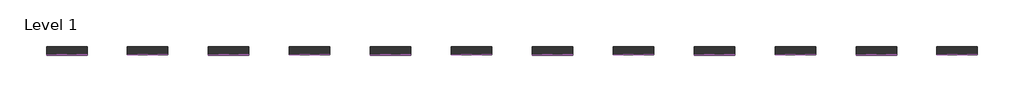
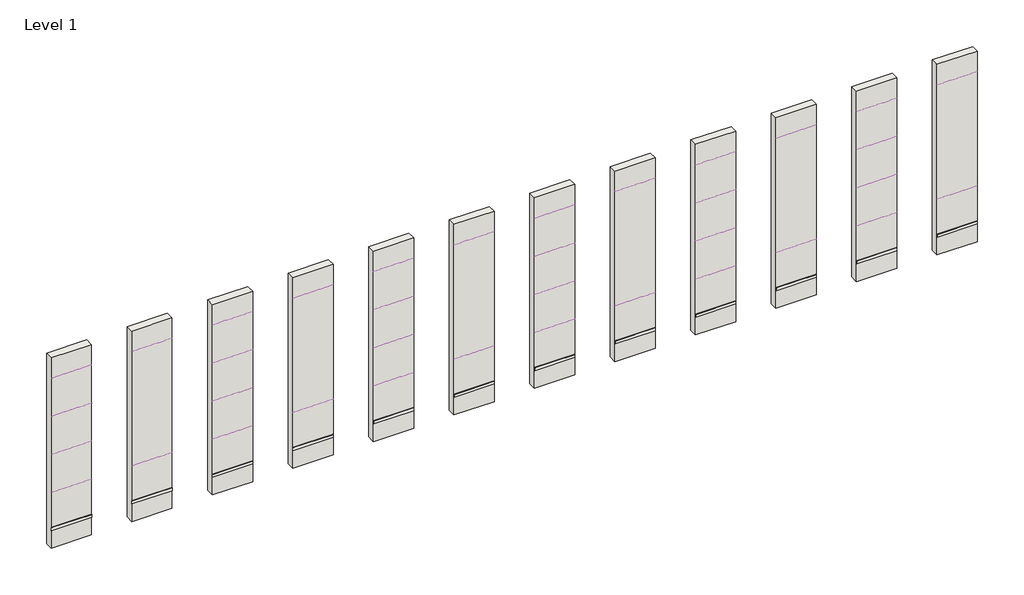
# One storey: 48 coverings, 12 walls.
"""IFC4 building model written with IfcOpenShell, lengths in millimetres."""

from ifc_helpers import new_model, si_unit, point, frame, frame_2d, origin, place, context, project, spatial, polyline, circle_curve, trimmed, segment, composite_curve, outline, extrude, element, save

model = new_model("IFC4")

# Units and contexts
model_context = context("Model", 3, world=origin())
ifc_project = project(units=[si_unit("LENGTHUNIT", "METRE", prefix="MILLI")], contexts=[model_context])

# Site, building, storey
site = spatial("IfcSite", under=ifc_project)
building = spatial("IfcBuilding", under=site)
storey = spatial("IfcBuildingStorey", under=building, Name="Level 1", Elevation=0.0)

# Coverings
placement = place(None, origin())
element("IfcCovering", 1, ObjectType="REVIGRÉS-URBAN-RB-8X45-RECT-ANTRACITE", at=placement, inside=storey, context=model_context, shape_type="SweptSolid", body=[
    extrude(outline(composite_curve([segment(polyline([(-6973.1153225, 350.0), (-6982.9153225, 350.0), (-6982.9153225, 420.2)]), True, "CONTINUOUS"), segment(trimmed(circle_curve(frame_2d((-6973.1153225, 420.2)), 9.8), [point((-6982.9153225, 420.2))], [point((-6973.1153225, 430.0))], False, "CARTESIAN"), True, "CONTINUOUS"), segment(polyline([(-6973.1153225, 430.0), (-6973.1153225, 350.0)]), True, "CONTINUOUS")], self_intersect=False)), frame((5592.0023157, 0.0, 0.0), z_axis=(1.0, 0.0, 0.0), x_axis=(0.0, 1.0, 0.0)), (0.0, 0.0, 1.0), 1000.0),
])
element("IfcCovering", 2, ObjectType="REVIGRÉS-URBAN-RB-8X60-RECT-ANTRACITE", at=placement, inside=storey, context=model_context, shape_type="SweptSolid", body=[
    extrude(outline(composite_curve([segment(polyline([(-6973.1153225, 1350.0), (-6981.6153225, 1350.0), (-6981.6153225, 1421.5)]), True, "CONTINUOUS"), segment(trimmed(circle_curve(frame_2d((-6973.1153225, 1421.5)), 8.5), [point((-6981.6153225, 1421.5))], [point((-6973.1153225, 1430.0))], False, "CARTESIAN"), True, "CONTINUOUS"), segment(polyline([(-6973.1153225, 1430.0), (-6973.1153225, 1350.0)]), True, "CONTINUOUS")], self_intersect=False)), frame((5592.0023157, 0.0, 0.0), z_axis=(1.0, 0.0, 0.0), x_axis=(0.0, 1.0, 0.0)), (0.0, 0.0, 1.0), 1000.0),
])
element("IfcCovering", 3, ObjectType="REVIGRÉS-URBAN-RB-8X90-RECT-ANTRACITE", at=placement, inside=storey, context=model_context, shape_type="SweptSolid", body=[
    extrude(outline(composite_curve([segment(polyline([(-6973.1153225, 2350.0), (-6983.6153225, 2350.0), (-6983.6153225, 2419.5)]), True, "CONTINUOUS"), segment(trimmed(circle_curve(frame_2d((-6973.1153225, 2419.5)), 10.5), [point((-6983.6153225, 2419.5))], [point((-6973.1153225, 2430.0))], False, "CARTESIAN"), True, "CONTINUOUS"), segment(polyline([(-6973.1153225, 2430.0), (-6973.1153225, 2350.0)]), True, "CONTINUOUS")], self_intersect=False)), frame((5592.0023157, 0.0, 0.0), z_axis=(1.0, 0.0, 0.0), x_axis=(0.0, 1.0, 0.0)), (0.0, 0.0, 1.0), 1000.0),
])
element("IfcCovering", 4, ObjectType="REVIGRÉS-URBAN-RB-8X120-RECT-ANTRACITE", at=placement, inside=storey, context=model_context, shape_type="SweptSolid", body=[
    extrude(outline(composite_curve([segment(polyline([(-6973.1153225, 3350.0), (-6982.9153225, 3350.0), (-6982.9153225, 3420.2)]), True, "CONTINUOUS"), segment(trimmed(circle_curve(frame_2d((-6973.1153225, 3420.2)), 9.8), [point((-6982.9153225, 3420.2))], [point((-6973.1153225, 3430.0))], False, "CARTESIAN"), True, "CONTINUOUS"), segment(polyline([(-6973.1153225, 3430.0), (-6973.1153225, 3350.0)]), True, "CONTINUOUS")], self_intersect=False)), frame((5592.0023157, 0.0, 0.0), z_axis=(1.0, 0.0, 0.0), x_axis=(0.0, 1.0, 0.0)), (0.0, 0.0, 1.0), 1000.0),
])
element("IfcCovering", 5, ObjectType="REVIGRÉS-URBAN-RB-9.5X30-RECT-ANTRACITE", at=placement, inside=storey, context=model_context, shape_type="SweptSolid", body=[
    extrude(outline(composite_curve([segment(polyline([(-6973.1153225, 4350.0), (-6980.8153225, 4350.0), (-6980.8153225, 4437.3)]), True, "CONTINUOUS"), segment(trimmed(circle_curve(frame_2d((-6973.1153225, 4437.3)), 7.7), [point((-6980.8153225, 4437.3))], [point((-6973.1153225, 4445.0))], False, "CARTESIAN"), True, "CONTINUOUS"), segment(polyline([(-6973.1153225, 4445.0), (-6973.1153225, 4350.0)]), True, "CONTINUOUS")], self_intersect=False)), frame((5592.0023157, 0.0, 0.0), z_axis=(1.0, 0.0, 0.0), x_axis=(0.0, 1.0, 0.0)), (0.0, 0.0, 1.0), 1000.0),
])
element("IfcCovering", 6, ObjectType="REVIGRÉS-URBAN-RB-8X45-NAT-ANTRACITE", at=placement, inside=storey, context=model_context, shape_type="SweptSolid", body=[
    extrude(outline(composite_curve([segment(polyline([(-6973.1153225, 350.0), (-6981.6153225, 350.0), (-6981.6153225, 421.5)]), True, "CONTINUOUS"), segment(trimmed(circle_curve(frame_2d((-6973.1153225, 421.5)), 8.5), [point((-6981.6153225, 421.5))], [point((-6973.1153225, 430.0))], False, "CARTESIAN"), True, "CONTINUOUS"), segment(polyline([(-6973.1153225, 430.0), (-6973.1153225, 350.0)]), True, "CONTINUOUS")], self_intersect=False)), frame((7592.0023157, 0.0, 0.0), z_axis=(1.0, 0.0, 0.0), x_axis=(0.0, 1.0, 0.0)), (0.0, 0.0, 1.0), 1000.0),
])
element("IfcCovering", 7, ObjectType="REVIGRÉS-URBAN-RB-8X60-NAT-ANTRACITE", at=placement, inside=storey, context=model_context, shape_type="SweptSolid", body=[
    extrude(outline(composite_curve([segment(polyline([(-6973.1153225, 1350.0), (-6981.6153225, 1350.0), (-6981.6153225, 1421.5)]), True, "CONTINUOUS"), segment(trimmed(circle_curve(frame_2d((-6973.1153225, 1421.5)), 8.5), [point((-6981.6153225, 1421.5))], [point((-6973.1153225, 1430.0))], False, "CARTESIAN"), True, "CONTINUOUS"), segment(polyline([(-6973.1153225, 1430.0), (-6973.1153225, 1350.0)]), True, "CONTINUOUS")], self_intersect=False)), frame((7592.0023157, 0.0, 0.0), z_axis=(1.0, 0.0, 0.0), x_axis=(0.0, 1.0, 0.0)), (0.0, 0.0, 1.0), 1000.0),
])
element("IfcCovering", 8, ObjectType="REVIGRÉS-URBAN-RB-9.5X30-NAT-ANTRACITE", at=placement, inside=storey, context=model_context, shape_type="SweptSolid", body=[
    extrude(outline(composite_curve([segment(polyline([(-6973.1153225, 4350.0), (-6980.8153225, 4350.0), (-6980.8153225, 4437.3)]), True, "CONTINUOUS"), segment(trimmed(circle_curve(frame_2d((-6973.1153225, 4437.3)), 7.7), [point((-6980.8153225, 4437.3))], [point((-6973.1153225, 4445.0))], False, "CARTESIAN"), True, "CONTINUOUS"), segment(polyline([(-6973.1153225, 4445.0), (-6973.1153225, 4350.0)]), True, "CONTINUOUS")], self_intersect=False)), frame((7592.0023157, 0.0, 0.0), z_axis=(1.0, 0.0, 0.0), x_axis=(0.0, 1.0, 0.0)), (0.0, 0.0, 1.0), 1000.0),
])
element("IfcCovering", 9, ObjectType="REVIGRÉS-URBAN-RB-8X45-RECT-BONE", at=placement, inside=storey, context=model_context, shape_type="SweptSolid", body=[
    extrude(outline(composite_curve([segment(polyline([(-6973.1153225, 350.0), (-6982.9153225, 350.0), (-6982.9153225, 420.2)]), True, "CONTINUOUS"), segment(trimmed(circle_curve(frame_2d((-6973.1153225, 420.2)), 9.8), [point((-6982.9153225, 420.2))], [point((-6973.1153225, 430.0))], False, "CARTESIAN"), True, "CONTINUOUS"), segment(polyline([(-6973.1153225, 430.0), (-6973.1153225, 350.0)]), True, "CONTINUOUS")], self_intersect=False)), frame((9592.0023157, 0.0, 0.0), z_axis=(1.0, 0.0, 0.0), x_axis=(0.0, 1.0, 0.0)), (0.0, 0.0, 1.0), 1000.0),
])
element("IfcCovering", 10, ObjectType="REVIGRÉS-URBAN-RB-8X60-RECT-BONE", at=placement, inside=storey, context=model_context, shape_type="SweptSolid", body=[
    extrude(outline(composite_curve([segment(polyline([(-6973.1153225, 1350.0), (-6981.6153225, 1350.0), (-6981.6153225, 1421.5)]), True, "CONTINUOUS"), segment(trimmed(circle_curve(frame_2d((-6973.1153225, 1421.5)), 8.5), [point((-6981.6153225, 1421.5))], [point((-6973.1153225, 1430.0))], False, "CARTESIAN"), True, "CONTINUOUS"), segment(polyline([(-6973.1153225, 1430.0), (-6973.1153225, 1350.0)]), True, "CONTINUOUS")], self_intersect=False)), frame((9592.0023157, 0.0, 0.0), z_axis=(1.0, 0.0, 0.0), x_axis=(0.0, 1.0, 0.0)), (0.0, 0.0, 1.0), 1000.0),
])
element("IfcCovering", 11, ObjectType="REVIGRÉS-URBAN-RB-8X90-RECT-BONE", at=placement, inside=storey, context=model_context, shape_type="SweptSolid", body=[
    extrude(outline(composite_curve([segment(polyline([(-6973.1153225, 2350.0), (-6983.6153225, 2350.0), (-6983.6153225, 2419.5)]), True, "CONTINUOUS"), segment(trimmed(circle_curve(frame_2d((-6973.1153225, 2419.5)), 10.5), [point((-6983.6153225, 2419.5))], [point((-6973.1153225, 2430.0))], False, "CARTESIAN"), True, "CONTINUOUS"), segment(polyline([(-6973.1153225, 2430.0), (-6973.1153225, 2350.0)]), True, "CONTINUOUS")], self_intersect=False)), frame((9592.0023157, 0.0, 0.0), z_axis=(1.0, 0.0, 0.0), x_axis=(0.0, 1.0, 0.0)), (0.0, 0.0, 1.0), 1000.0),
])
element("IfcCovering", 12, ObjectType="REVIGRÉS-URBAN-RB-8X120-RECT-BONE", at=placement, inside=storey, context=model_context, shape_type="SweptSolid", body=[
    extrude(outline(composite_curve([segment(polyline([(-6973.1153225, 3350.0), (-6982.9153225, 3350.0), (-6982.9153225, 3420.2)]), True, "CONTINUOUS"), segment(trimmed(circle_curve(frame_2d((-6973.1153225, 3420.2)), 9.8), [point((-6982.9153225, 3420.2))], [point((-6973.1153225, 3430.0))], False, "CARTESIAN"), True, "CONTINUOUS"), segment(polyline([(-6973.1153225, 3430.0), (-6973.1153225, 3350.0)]), True, "CONTINUOUS")], self_intersect=False)), frame((9592.0023157, 0.0, 0.0), z_axis=(1.0, 0.0, 0.0), x_axis=(0.0, 1.0, 0.0)), (0.0, 0.0, 1.0), 1000.0),
])
element("IfcCovering", 13, ObjectType="REVIGRÉS-URBAN-RB-9.5X30-RECT-BONE", at=placement, inside=storey, context=model_context, shape_type="SweptSolid", body=[
    extrude(outline(composite_curve([segment(polyline([(-6973.1153225, 4350.0), (-6980.8153225, 4350.0), (-6980.8153225, 4437.3)]), True, "CONTINUOUS"), segment(trimmed(circle_curve(frame_2d((-6973.1153225, 4437.3)), 7.7), [point((-6980.8153225, 4437.3))], [point((-6973.1153225, 4445.0))], False, "CARTESIAN"), True, "CONTINUOUS"), segment(polyline([(-6973.1153225, 4445.0), (-6973.1153225, 4350.0)]), True, "CONTINUOUS")], self_intersect=False)), frame((9592.0023157, 0.0, 0.0), z_axis=(1.0, 0.0, 0.0), x_axis=(0.0, 1.0, 0.0)), (0.0, 0.0, 1.0), 1000.0),
])
element("IfcCovering", 14, ObjectType="REVIGRÉS-URBAN-RB-8X45-NAT-BONE", at=placement, inside=storey, context=model_context, shape_type="SweptSolid", body=[
    extrude(outline(composite_curve([segment(polyline([(-6973.1153225, 350.0), (-6981.6153225, 350.0), (-6981.6153225, 421.5)]), True, "CONTINUOUS"), segment(trimmed(circle_curve(frame_2d((-6973.1153225, 421.5)), 8.5), [point((-6981.6153225, 421.5))], [point((-6973.1153225, 430.0))], False, "CARTESIAN"), True, "CONTINUOUS"), segment(polyline([(-6973.1153225, 430.0), (-6973.1153225, 350.0)]), True, "CONTINUOUS")], self_intersect=False)), frame((11592.0023157, 0.0, 0.0), z_axis=(1.0, 0.0, 0.0), x_axis=(0.0, 1.0, 0.0)), (0.0, 0.0, 1.0), 1000.0),
])
element("IfcCovering", 15, ObjectType="REVIGRÉS-URBAN-RB-8X60-NAT-BONE", at=placement, inside=storey, context=model_context, shape_type="SweptSolid", body=[
    extrude(outline(composite_curve([segment(polyline([(-6973.1153225, 1350.0), (-6981.6153225, 1350.0), (-6981.6153225, 1421.5)]), True, "CONTINUOUS"), segment(trimmed(circle_curve(frame_2d((-6973.1153225, 1421.5)), 8.5), [point((-6981.6153225, 1421.5))], [point((-6973.1153225, 1430.0))], False, "CARTESIAN"), True, "CONTINUOUS"), segment(polyline([(-6973.1153225, 1430.0), (-6973.1153225, 1350.0)]), True, "CONTINUOUS")], self_intersect=False)), frame((11592.0023157, 0.0, 0.0), z_axis=(1.0, 0.0, 0.0), x_axis=(0.0, 1.0, 0.0)), (0.0, 0.0, 1.0), 1000.0),
])
element("IfcCovering", 16, ObjectType="REVIGRÉS-URBAN-RB-9.5X30-NAT-BONE", at=placement, inside=storey, context=model_context, shape_type="SweptSolid", body=[
    extrude(outline(composite_curve([segment(polyline([(-6973.1153225, 4350.0), (-6980.8153225, 4350.0), (-6980.8153225, 4437.3)]), True, "CONTINUOUS"), segment(trimmed(circle_curve(frame_2d((-6973.1153225, 4437.3)), 7.7), [point((-6980.8153225, 4437.3))], [point((-6973.1153225, 4445.0))], False, "CARTESIAN"), True, "CONTINUOUS"), segment(polyline([(-6973.1153225, 4445.0), (-6973.1153225, 4350.0)]), True, "CONTINUOUS")], self_intersect=False)), frame((11592.0023157, 0.0, 0.0), z_axis=(1.0, 0.0, 0.0), x_axis=(0.0, 1.0, 0.0)), (0.0, 0.0, 1.0), 1000.0),
])
element("IfcCovering", 17, ObjectType="REVIGRÉS-URBAN-RB-8X45-RECT-CRAFT", at=placement, inside=storey, context=model_context, shape_type="SweptSolid", body=[
    extrude(outline(composite_curve([segment(polyline([(-6973.1153225, 350.0), (-6982.9153225, 350.0), (-6982.9153225, 420.2)]), True, "CONTINUOUS"), segment(trimmed(circle_curve(frame_2d((-6973.1153225, 420.2)), 9.8), [point((-6982.9153225, 420.2))], [point((-6973.1153225, 430.0))], False, "CARTESIAN"), True, "CONTINUOUS"), segment(polyline([(-6973.1153225, 430.0), (-6973.1153225, 350.0)]), True, "CONTINUOUS")], self_intersect=False)), frame((13592.0023157, 0.0, 0.0), z_axis=(1.0, 0.0, 0.0), x_axis=(0.0, 1.0, 0.0)), (0.0, 0.0, 1.0), 1000.0),
])
element("IfcCovering", 18, ObjectType="REVIGRÉS-URBAN-RB-8X60-RECT-CRAFT", at=placement, inside=storey, context=model_context, shape_type="SweptSolid", body=[
    extrude(outline(composite_curve([segment(polyline([(-6973.1153225, 1350.0), (-6981.6153225, 1350.0), (-6981.6153225, 1421.5)]), True, "CONTINUOUS"), segment(trimmed(circle_curve(frame_2d((-6973.1153225, 1421.5)), 8.5), [point((-6981.6153225, 1421.5))], [point((-6973.1153225, 1430.0))], False, "CARTESIAN"), True, "CONTINUOUS"), segment(polyline([(-6973.1153225, 1430.0), (-6973.1153225, 1350.0)]), True, "CONTINUOUS")], self_intersect=False)), frame((13592.0023157, 0.0, 0.0), z_axis=(1.0, 0.0, 0.0), x_axis=(0.0, 1.0, 0.0)), (0.0, 0.0, 1.0), 1000.0),
])
element("IfcCovering", 19, ObjectType="REVIGRÉS-URBAN-RB-8X90-RECT-CRAFT", at=placement, inside=storey, context=model_context, shape_type="SweptSolid", body=[
    extrude(outline(composite_curve([segment(polyline([(-6973.1153225, 2350.0), (-6983.6153225, 2350.0), (-6983.6153225, 2419.5)]), True, "CONTINUOUS"), segment(trimmed(circle_curve(frame_2d((-6973.1153225, 2419.5)), 10.5), [point((-6983.6153225, 2419.5))], [point((-6973.1153225, 2430.0))], False, "CARTESIAN"), True, "CONTINUOUS"), segment(polyline([(-6973.1153225, 2430.0), (-6973.1153225, 2350.0)]), True, "CONTINUOUS")], self_intersect=False)), frame((13592.0023157, 0.0, 0.0), z_axis=(1.0, 0.0, 0.0), x_axis=(0.0, 1.0, 0.0)), (0.0, 0.0, 1.0), 1000.0),
])
element("IfcCovering", 20, ObjectType="REVIGRÉS-URBAN-RB-8X120-RECT-CRAFT", at=placement, inside=storey, context=model_context, shape_type="SweptSolid", body=[
    extrude(outline(composite_curve([segment(polyline([(-6973.1153225, 3350.0), (-6982.9153225, 3350.0), (-6982.9153225, 3420.2)]), True, "CONTINUOUS"), segment(trimmed(circle_curve(frame_2d((-6973.1153225, 3420.2)), 9.8), [point((-6982.9153225, 3420.2))], [point((-6973.1153225, 3430.0))], False, "CARTESIAN"), True, "CONTINUOUS"), segment(polyline([(-6973.1153225, 3430.0), (-6973.1153225, 3350.0)]), True, "CONTINUOUS")], self_intersect=False)), frame((13592.0023157, 0.0, 0.0), z_axis=(1.0, 0.0, 0.0), x_axis=(0.0, 1.0, 0.0)), (0.0, 0.0, 1.0), 1000.0),
])
element("IfcCovering", 21, ObjectType="REVIGRÉS-URBAN-RB-9.5X30-RECT-CRAFT", at=placement, inside=storey, context=model_context, shape_type="SweptSolid", body=[
    extrude(outline(composite_curve([segment(polyline([(-6973.1153225, 4350.0), (-6980.8153225, 4350.0), (-6980.8153225, 4437.3)]), True, "CONTINUOUS"), segment(trimmed(circle_curve(frame_2d((-6973.1153225, 4437.3)), 7.7), [point((-6980.8153225, 4437.3))], [point((-6973.1153225, 4445.0))], False, "CARTESIAN"), True, "CONTINUOUS"), segment(polyline([(-6973.1153225, 4445.0), (-6973.1153225, 4350.0)]), True, "CONTINUOUS")], self_intersect=False)), frame((13592.0023157, 0.0, 0.0), z_axis=(1.0, 0.0, 0.0), x_axis=(0.0, 1.0, 0.0)), (0.0, 0.0, 1.0), 1000.0),
])
element("IfcCovering", 22, ObjectType="REVIGRÉS-URBAN-RB-8X45-NAT-CRAFT", at=placement, inside=storey, context=model_context, shape_type="SweptSolid", body=[
    extrude(outline(composite_curve([segment(polyline([(-6973.1153225, 350.0), (-6981.6153225, 350.0), (-6981.6153225, 421.5)]), True, "CONTINUOUS"), segment(trimmed(circle_curve(frame_2d((-6973.1153225, 421.5)), 8.5), [point((-6981.6153225, 421.5))], [point((-6973.1153225, 430.0))], False, "CARTESIAN"), True, "CONTINUOUS"), segment(polyline([(-6973.1153225, 430.0), (-6973.1153225, 350.0)]), True, "CONTINUOUS")], self_intersect=False)), frame((15592.0023157, 0.0, 0.0), z_axis=(1.0, 0.0, 0.0), x_axis=(0.0, 1.0, 0.0)), (0.0, 0.0, 1.0), 1000.0),
])
element("IfcCovering", 23, ObjectType="REVIGRÉS-URBAN-RB-8X60-NAT-CRAFT", at=placement, inside=storey, context=model_context, shape_type="SweptSolid", body=[
    extrude(outline(composite_curve([segment(polyline([(-6973.1153225, 1350.0), (-6981.6153225, 1350.0), (-6981.6153225, 1421.5)]), True, "CONTINUOUS"), segment(trimmed(circle_curve(frame_2d((-6973.1153225, 1421.5)), 8.5), [point((-6981.6153225, 1421.5))], [point((-6973.1153225, 1430.0))], False, "CARTESIAN"), True, "CONTINUOUS"), segment(polyline([(-6973.1153225, 1430.0), (-6973.1153225, 1350.0)]), True, "CONTINUOUS")], self_intersect=False)), frame((15592.0023157, 0.0, 0.0), z_axis=(1.0, 0.0, 0.0), x_axis=(0.0, 1.0, 0.0)), (0.0, 0.0, 1.0), 1000.0),
])
element("IfcCovering", 24, ObjectType="REVIGRÉS-URBAN-RB-9.5X30-NAT-CRAFT", at=placement, inside=storey, context=model_context, shape_type="SweptSolid", body=[
    extrude(outline(composite_curve([segment(polyline([(-6973.1153225, 4350.0), (-6980.8153225, 4350.0), (-6980.8153225, 4437.3)]), True, "CONTINUOUS"), segment(trimmed(circle_curve(frame_2d((-6973.1153225, 4437.3)), 7.7), [point((-6980.8153225, 4437.3))], [point((-6973.1153225, 4445.0))], False, "CARTESIAN"), True, "CONTINUOUS"), segment(polyline([(-6973.1153225, 4445.0), (-6973.1153225, 4350.0)]), True, "CONTINUOUS")], self_intersect=False)), frame((15592.0023157, 0.0, 0.0), z_axis=(1.0, 0.0, 0.0), x_axis=(0.0, 1.0, 0.0)), (0.0, 0.0, 1.0), 1000.0),
])
element("IfcCovering", 25, ObjectType="REVIGRÉS-URBAN-RB-8X45-RECT-FOG", at=placement, inside=storey, context=model_context, shape_type="SweptSolid", body=[
    extrude(outline(composite_curve([segment(polyline([(-6973.1153225, 350.0), (-6982.9153225, 350.0), (-6982.9153225, 420.2)]), True, "CONTINUOUS"), segment(trimmed(circle_curve(frame_2d((-6973.1153225, 420.2)), 9.8), [point((-6982.9153225, 420.2))], [point((-6973.1153225, 430.0))], False, "CARTESIAN"), True, "CONTINUOUS"), segment(polyline([(-6973.1153225, 430.0), (-6973.1153225, 350.0)]), True, "CONTINUOUS")], self_intersect=False)), frame((17592.0023157, 0.0, 0.0), z_axis=(1.0, 0.0, 0.0), x_axis=(0.0, 1.0, 0.0)), (0.0, 0.0, 1.0), 1000.0),
])
element("IfcCovering", 26, ObjectType="REVIGRÉS-URBAN-RB-8X60-RECT-FOG", at=placement, inside=storey, context=model_context, shape_type="SweptSolid", body=[
    extrude(outline(composite_curve([segment(polyline([(-6973.1153225, 1350.0), (-6981.6153225, 1350.0), (-6981.6153225, 1421.5)]), True, "CONTINUOUS"), segment(trimmed(circle_curve(frame_2d((-6973.1153225, 1421.5)), 8.5), [point((-6981.6153225, 1421.5))], [point((-6973.1153225, 1430.0))], False, "CARTESIAN"), True, "CONTINUOUS"), segment(polyline([(-6973.1153225, 1430.0), (-6973.1153225, 1350.0)]), True, "CONTINUOUS")], self_intersect=False)), frame((17592.0023157, 0.0, 0.0), z_axis=(1.0, 0.0, 0.0), x_axis=(0.0, 1.0, 0.0)), (0.0, 0.0, 1.0), 1000.0),
])
element("IfcCovering", 27, ObjectType="REVIGRÉS-URBAN-RB-8X90-RECT-FOG", at=placement, inside=storey, context=model_context, shape_type="SweptSolid", body=[
    extrude(outline(composite_curve([segment(polyline([(-6973.1153225, 2350.0), (-6983.6153225, 2350.0), (-6983.6153225, 2419.5)]), True, "CONTINUOUS"), segment(trimmed(circle_curve(frame_2d((-6973.1153225, 2419.5)), 10.5), [point((-6983.6153225, 2419.5))], [point((-6973.1153225, 2430.0))], False, "CARTESIAN"), True, "CONTINUOUS"), segment(polyline([(-6973.1153225, 2430.0), (-6973.1153225, 2350.0)]), True, "CONTINUOUS")], self_intersect=False)), frame((17592.0023157, 0.0, 0.0), z_axis=(1.0, 0.0, 0.0), x_axis=(0.0, 1.0, 0.0)), (0.0, 0.0, 1.0), 1000.0),
])
element("IfcCovering", 28, ObjectType="REVIGRÉS-URBAN-RB-8X120-RECT-FOG", at=placement, inside=storey, context=model_context, shape_type="SweptSolid", body=[
    extrude(outline(composite_curve([segment(polyline([(-6973.1153225, 3350.0), (-6982.9153225, 3350.0), (-6982.9153225, 3420.2)]), True, "CONTINUOUS"), segment(trimmed(circle_curve(frame_2d((-6973.1153225, 3420.2)), 9.8), [point((-6982.9153225, 3420.2))], [point((-6973.1153225, 3430.0))], False, "CARTESIAN"), True, "CONTINUOUS"), segment(polyline([(-6973.1153225, 3430.0), (-6973.1153225, 3350.0)]), True, "CONTINUOUS")], self_intersect=False)), frame((17592.0023157, 0.0, 0.0), z_axis=(1.0, 0.0, 0.0), x_axis=(0.0, 1.0, 0.0)), (0.0, 0.0, 1.0), 1000.0),
])
element("IfcCovering", 29, ObjectType="REVIGRÉS-URBAN-RB-9.5X30-RECT-FOG", at=placement, inside=storey, context=model_context, shape_type="SweptSolid", body=[
    extrude(outline(composite_curve([segment(polyline([(-6973.1153225, 4350.0), (-6980.8153225, 4350.0), (-6980.8153225, 4437.3)]), True, "CONTINUOUS"), segment(trimmed(circle_curve(frame_2d((-6973.1153225, 4437.3)), 7.7), [point((-6980.8153225, 4437.3))], [point((-6973.1153225, 4445.0))], False, "CARTESIAN"), True, "CONTINUOUS"), segment(polyline([(-6973.1153225, 4445.0), (-6973.1153225, 4350.0)]), True, "CONTINUOUS")], self_intersect=False)), frame((17592.0023157, 0.0, 0.0), z_axis=(1.0, 0.0, 0.0), x_axis=(0.0, 1.0, 0.0)), (0.0, 0.0, 1.0), 1000.0),
])
element("IfcCovering", 30, ObjectType="REVIGRÉS-URBAN-RB-8X45-NAT-FOG", at=placement, inside=storey, context=model_context, shape_type="SweptSolid", body=[
    extrude(outline(composite_curve([segment(polyline([(-6973.1153225, 350.0), (-6981.6153225, 350.0), (-6981.6153225, 421.5)]), True, "CONTINUOUS"), segment(trimmed(circle_curve(frame_2d((-6973.1153225, 421.5)), 8.5), [point((-6981.6153225, 421.5))], [point((-6973.1153225, 430.0))], False, "CARTESIAN"), True, "CONTINUOUS"), segment(polyline([(-6973.1153225, 430.0), (-6973.1153225, 350.0)]), True, "CONTINUOUS")], self_intersect=False)), frame((19592.0023157, 0.0, 0.0), z_axis=(1.0, 0.0, 0.0), x_axis=(0.0, 1.0, 0.0)), (0.0, 0.0, 1.0), 1000.0),
])
element("IfcCovering", 31, ObjectType="REVIGRÉS-URBAN-RB-8X60-NAT-FOG", at=placement, inside=storey, context=model_context, shape_type="SweptSolid", body=[
    extrude(outline(composite_curve([segment(polyline([(-6973.1153225, 1350.0), (-6981.6153225, 1350.0), (-6981.6153225, 1421.5)]), True, "CONTINUOUS"), segment(trimmed(circle_curve(frame_2d((-6973.1153225, 1421.5)), 8.5), [point((-6981.6153225, 1421.5))], [point((-6973.1153225, 1430.0))], False, "CARTESIAN"), True, "CONTINUOUS"), segment(polyline([(-6973.1153225, 1430.0), (-6973.1153225, 1350.0)]), True, "CONTINUOUS")], self_intersect=False)), frame((19592.0023157, 0.0, 0.0), z_axis=(1.0, 0.0, 0.0), x_axis=(0.0, 1.0, 0.0)), (0.0, 0.0, 1.0), 1000.0),
])
element("IfcCovering", 32, ObjectType="REVIGRÉS-URBAN-RB-9.5X30-NAT-FOG", at=placement, inside=storey, context=model_context, shape_type="SweptSolid", body=[
    extrude(outline(composite_curve([segment(polyline([(-6973.1153225, 4350.0), (-6980.8153225, 4350.0), (-6980.8153225, 4437.3)]), True, "CONTINUOUS"), segment(trimmed(circle_curve(frame_2d((-6973.1153225, 4437.3)), 7.7), [point((-6980.8153225, 4437.3))], [point((-6973.1153225, 4445.0))], False, "CARTESIAN"), True, "CONTINUOUS"), segment(polyline([(-6973.1153225, 4445.0), (-6973.1153225, 4350.0)]), True, "CONTINUOUS")], self_intersect=False)), frame((19592.0023157, 0.0, 0.0), z_axis=(1.0, 0.0, 0.0), x_axis=(0.0, 1.0, 0.0)), (0.0, 0.0, 1.0), 1000.0),
])
element("IfcCovering", 33, ObjectType="REVIGRÉS-URBAN-RB-8X45-RECT-GRIS", at=placement, inside=storey, context=model_context, shape_type="SweptSolid", body=[
    extrude(outline(composite_curve([segment(polyline([(-6973.1153225, 350.0), (-6982.9153225, 350.0), (-6982.9153225, 420.2)]), True, "CONTINUOUS"), segment(trimmed(circle_curve(frame_2d((-6973.1153225, 420.2)), 9.8), [point((-6982.9153225, 420.2))], [point((-6973.1153225, 430.0))], False, "CARTESIAN"), True, "CONTINUOUS"), segment(polyline([(-6973.1153225, 430.0), (-6973.1153225, 350.0)]), True, "CONTINUOUS")], self_intersect=False)), frame((21592.0023157, 0.0, 0.0), z_axis=(1.0, 0.0, 0.0), x_axis=(0.0, 1.0, 0.0)), (0.0, 0.0, 1.0), 1000.0),
])
element("IfcCovering", 34, ObjectType="REVIGRÉS-URBAN-RB-8X60-RECT-GRIS", at=placement, inside=storey, context=model_context, shape_type="SweptSolid", body=[
    extrude(outline(composite_curve([segment(polyline([(-6973.1153225, 1350.0), (-6981.6153225, 1350.0), (-6981.6153225, 1421.5)]), True, "CONTINUOUS"), segment(trimmed(circle_curve(frame_2d((-6973.1153225, 1421.5)), 8.5), [point((-6981.6153225, 1421.5))], [point((-6973.1153225, 1430.0))], False, "CARTESIAN"), True, "CONTINUOUS"), segment(polyline([(-6973.1153225, 1430.0), (-6973.1153225, 1350.0)]), True, "CONTINUOUS")], self_intersect=False)), frame((21592.0023157, 0.0, 0.0), z_axis=(1.0, 0.0, 0.0), x_axis=(0.0, 1.0, 0.0)), (0.0, 0.0, 1.0), 1000.0),
])
element("IfcCovering", 35, ObjectType="REVIGRÉS-URBAN-RB-8X90-RECT-GRIS", at=placement, inside=storey, context=model_context, shape_type="SweptSolid", body=[
    extrude(outline(composite_curve([segment(polyline([(-6973.1153225, 2350.0), (-6983.6153225, 2350.0), (-6983.6153225, 2419.5)]), True, "CONTINUOUS"), segment(trimmed(circle_curve(frame_2d((-6973.1153225, 2419.5)), 10.5), [point((-6983.6153225, 2419.5))], [point((-6973.1153225, 2430.0))], False, "CARTESIAN"), True, "CONTINUOUS"), segment(polyline([(-6973.1153225, 2430.0), (-6973.1153225, 2350.0)]), True, "CONTINUOUS")], self_intersect=False)), frame((21592.0023157, 0.0, 0.0), z_axis=(1.0, 0.0, 0.0), x_axis=(0.0, 1.0, 0.0)), (0.0, 0.0, 1.0), 1000.0),
])
element("IfcCovering", 36, ObjectType="REVIGRÉS-URBAN-RB-8X120-RECT-GRIS", at=placement, inside=storey, context=model_context, shape_type="SweptSolid", body=[
    extrude(outline(composite_curve([segment(polyline([(-6973.1153225, 3350.0), (-6982.9153225, 3350.0), (-6982.9153225, 3420.2)]), True, "CONTINUOUS"), segment(trimmed(circle_curve(frame_2d((-6973.1153225, 3420.2)), 9.8), [point((-6982.9153225, 3420.2))], [point((-6973.1153225, 3430.0))], False, "CARTESIAN"), True, "CONTINUOUS"), segment(polyline([(-6973.1153225, 3430.0), (-6973.1153225, 3350.0)]), True, "CONTINUOUS")], self_intersect=False)), frame((21592.0023157, 0.0, 0.0), z_axis=(1.0, 0.0, 0.0), x_axis=(0.0, 1.0, 0.0)), (0.0, 0.0, 1.0), 1000.0),
])
element("IfcCovering", 37, ObjectType="REVIGRÉS-URBAN-RB-9.5X30-RECT-GRIS", at=placement, inside=storey, context=model_context, shape_type="SweptSolid", body=[
    extrude(outline(composite_curve([segment(polyline([(-6973.1153225, 4350.0), (-6980.8153225, 4350.0), (-6980.8153225, 4437.3)]), True, "CONTINUOUS"), segment(trimmed(circle_curve(frame_2d((-6973.1153225, 4437.3)), 7.7), [point((-6980.8153225, 4437.3))], [point((-6973.1153225, 4445.0))], False, "CARTESIAN"), True, "CONTINUOUS"), segment(polyline([(-6973.1153225, 4445.0), (-6973.1153225, 4350.0)]), True, "CONTINUOUS")], self_intersect=False)), frame((21592.0023157, 0.0, 0.0), z_axis=(1.0, 0.0, 0.0), x_axis=(0.0, 1.0, 0.0)), (0.0, 0.0, 1.0), 1000.0),
])
element("IfcCovering", 38, ObjectType="REVIGRÉS-URBAN-RB-8X45-NAT-GRIS", at=placement, inside=storey, context=model_context, shape_type="SweptSolid", body=[
    extrude(outline(composite_curve([segment(polyline([(-6973.1153225, 350.0), (-6981.6153225, 350.0), (-6981.6153225, 421.5)]), True, "CONTINUOUS"), segment(trimmed(circle_curve(frame_2d((-6973.1153225, 421.5)), 8.5), [point((-6981.6153225, 421.5))], [point((-6973.1153225, 430.0))], False, "CARTESIAN"), True, "CONTINUOUS"), segment(polyline([(-6973.1153225, 430.0), (-6973.1153225, 350.0)]), True, "CONTINUOUS")], self_intersect=False)), frame((23592.0023157, 0.0, 0.0), z_axis=(1.0, 0.0, 0.0), x_axis=(0.0, 1.0, 0.0)), (0.0, 0.0, 1.0), 1000.0),
])
element("IfcCovering", 39, ObjectType="REVIGRÉS-URBAN-RB-8X60-NAT-GRIS", at=placement, inside=storey, context=model_context, shape_type="SweptSolid", body=[
    extrude(outline(composite_curve([segment(polyline([(-6973.1153225, 1350.0), (-6981.6153225, 1350.0), (-6981.6153225, 1421.5)]), True, "CONTINUOUS"), segment(trimmed(circle_curve(frame_2d((-6973.1153225, 1421.5)), 8.5), [point((-6981.6153225, 1421.5))], [point((-6973.1153225, 1430.0))], False, "CARTESIAN"), True, "CONTINUOUS"), segment(polyline([(-6973.1153225, 1430.0), (-6973.1153225, 1350.0)]), True, "CONTINUOUS")], self_intersect=False)), frame((23592.0023157, 0.0, 0.0), z_axis=(1.0, 0.0, 0.0), x_axis=(0.0, 1.0, 0.0)), (0.0, 0.0, 1.0), 1000.0),
])
element("IfcCovering", 40, ObjectType="REVIGRÉS-URBAN-RB-9.5X30-NAT-GRIS", at=placement, inside=storey, context=model_context, shape_type="SweptSolid", body=[
    extrude(outline(composite_curve([segment(polyline([(-6973.1153225, 4350.0), (-6980.8153225, 4350.0), (-6980.8153225, 4437.3)]), True, "CONTINUOUS"), segment(trimmed(circle_curve(frame_2d((-6973.1153225, 4437.3)), 7.7), [point((-6980.8153225, 4437.3))], [point((-6973.1153225, 4445.0))], False, "CARTESIAN"), True, "CONTINUOUS"), segment(polyline([(-6973.1153225, 4445.0), (-6973.1153225, 4350.0)]), True, "CONTINUOUS")], self_intersect=False)), frame((23592.0023157, 0.0, 0.0), z_axis=(1.0, 0.0, 0.0), x_axis=(0.0, 1.0, 0.0)), (0.0, 0.0, 1.0), 1000.0),
])
element("IfcCovering", 41, ObjectType="REVIGRÉS-URBAN-RB-8X45-RECT-OFFWHITE", at=placement, inside=storey, context=model_context, shape_type="SweptSolid", body=[
    extrude(outline(composite_curve([segment(polyline([(-6973.1153225, 350.0), (-6982.9153225, 350.0), (-6982.9153225, 420.2)]), True, "CONTINUOUS"), segment(trimmed(circle_curve(frame_2d((-6973.1153225, 420.2)), 9.8), [point((-6982.9153225, 420.2))], [point((-6973.1153225, 430.0))], False, "CARTESIAN"), True, "CONTINUOUS"), segment(polyline([(-6973.1153225, 430.0), (-6973.1153225, 350.0)]), True, "CONTINUOUS")], self_intersect=False)), frame((25592.0023157, 0.0, 0.0), z_axis=(1.0, 0.0, 0.0), x_axis=(0.0, 1.0, 0.0)), (0.0, 0.0, 1.0), 1000.0),
])
element("IfcCovering", 42, ObjectType="REVIGRÉS-URBAN-RB-8X60-RECT-OFFWHITE", at=placement, inside=storey, context=model_context, shape_type="SweptSolid", body=[
    extrude(outline(composite_curve([segment(polyline([(-6973.1153225, 1350.0), (-6981.6153225, 1350.0), (-6981.6153225, 1421.5)]), True, "CONTINUOUS"), segment(trimmed(circle_curve(frame_2d((-6973.1153225, 1421.5)), 8.5), [point((-6981.6153225, 1421.5))], [point((-6973.1153225, 1430.0))], False, "CARTESIAN"), True, "CONTINUOUS"), segment(polyline([(-6973.1153225, 1430.0), (-6973.1153225, 1350.0)]), True, "CONTINUOUS")], self_intersect=False)), frame((25592.0023157, 0.0, 0.0), z_axis=(1.0, 0.0, 0.0), x_axis=(0.0, 1.0, 0.0)), (0.0, 0.0, 1.0), 1000.0),
])
element("IfcCovering", 43, ObjectType="REVIGRÉS-URBAN-RB-8X90-RECT-OFFWHITE", at=placement, inside=storey, context=model_context, shape_type="SweptSolid", body=[
    extrude(outline(composite_curve([segment(polyline([(-6973.1153225, 2350.0), (-6983.6153225, 2350.0), (-6983.6153225, 2419.5)]), True, "CONTINUOUS"), segment(trimmed(circle_curve(frame_2d((-6973.1153225, 2419.5)), 10.5), [point((-6983.6153225, 2419.5))], [point((-6973.1153225, 2430.0))], False, "CARTESIAN"), True, "CONTINUOUS"), segment(polyline([(-6973.1153225, 2430.0), (-6973.1153225, 2350.0)]), True, "CONTINUOUS")], self_intersect=False)), frame((25592.0023157, 0.0, 0.0), z_axis=(1.0, 0.0, 0.0), x_axis=(0.0, 1.0, 0.0)), (0.0, 0.0, 1.0), 1000.0),
])
element("IfcCovering", 44, ObjectType="REVIGRÉS-URBAN-RB-8X120-RECT-OFFWHITE", at=placement, inside=storey, context=model_context, shape_type="SweptSolid", body=[
    extrude(outline(composite_curve([segment(polyline([(-6973.1153225, 3350.0), (-6982.9153225, 3350.0), (-6982.9153225, 3420.2)]), True, "CONTINUOUS"), segment(trimmed(circle_curve(frame_2d((-6973.1153225, 3420.2)), 9.8), [point((-6982.9153225, 3420.2))], [point((-6973.1153225, 3430.0))], False, "CARTESIAN"), True, "CONTINUOUS"), segment(polyline([(-6973.1153225, 3430.0), (-6973.1153225, 3350.0)]), True, "CONTINUOUS")], self_intersect=False)), frame((25592.0023157, 0.0, 0.0), z_axis=(1.0, 0.0, 0.0), x_axis=(0.0, 1.0, 0.0)), (0.0, 0.0, 1.0), 1000.0),
])
element("IfcCovering", 45, ObjectType="REVIGRÉS-URBAN-RB-9.5X30-RECT-OFFWHITE", at=placement, inside=storey, context=model_context, shape_type="SweptSolid", body=[
    extrude(outline(composite_curve([segment(polyline([(-6973.1153225, 4350.0), (-6980.8153225, 4350.0), (-6980.8153225, 4437.3)]), True, "CONTINUOUS"), segment(trimmed(circle_curve(frame_2d((-6973.1153225, 4437.3)), 7.7), [point((-6980.8153225, 4437.3))], [point((-6973.1153225, 4445.0))], False, "CARTESIAN"), True, "CONTINUOUS"), segment(polyline([(-6973.1153225, 4445.0), (-6973.1153225, 4350.0)]), True, "CONTINUOUS")], self_intersect=False)), frame((25592.0023157, 0.0, 0.0), z_axis=(1.0, 0.0, 0.0), x_axis=(0.0, 1.0, 0.0)), (0.0, 0.0, 1.0), 1000.0),
])
element("IfcCovering", 46, ObjectType="REVIGRÉS-URBAN-RB-8X45-NAT-OFFWHITE", at=placement, inside=storey, context=model_context, shape_type="SweptSolid", body=[
    extrude(outline(composite_curve([segment(polyline([(-6973.1153225, 350.0), (-6981.6153225, 350.0), (-6981.6153225, 421.5)]), True, "CONTINUOUS"), segment(trimmed(circle_curve(frame_2d((-6973.1153225, 421.5)), 8.5), [point((-6981.6153225, 421.5))], [point((-6973.1153225, 430.0))], False, "CARTESIAN"), True, "CONTINUOUS"), segment(polyline([(-6973.1153225, 430.0), (-6973.1153225, 350.0)]), True, "CONTINUOUS")], self_intersect=False)), frame((27592.0023157, 0.0, 0.0), z_axis=(1.0, 0.0, 0.0), x_axis=(0.0, 1.0, 0.0)), (0.0, 0.0, 1.0), 1000.0),
])
element("IfcCovering", 47, ObjectType="REVIGRÉS-URBAN-RB-8X60-NAT-OFFWHITE", at=placement, inside=storey, context=model_context, shape_type="SweptSolid", body=[
    extrude(outline(composite_curve([segment(polyline([(-6973.1153225, 1350.0), (-6981.6153225, 1350.0), (-6981.6153225, 1421.5)]), True, "CONTINUOUS"), segment(trimmed(circle_curve(frame_2d((-6973.1153225, 1421.5)), 8.5), [point((-6981.6153225, 1421.5))], [point((-6973.1153225, 1430.0))], False, "CARTESIAN"), True, "CONTINUOUS"), segment(polyline([(-6973.1153225, 1430.0), (-6973.1153225, 1350.0)]), True, "CONTINUOUS")], self_intersect=False)), frame((27592.0023157, 0.0, 0.0), z_axis=(1.0, 0.0, 0.0), x_axis=(0.0, 1.0, 0.0)), (0.0, 0.0, 1.0), 1000.0),
])
element("IfcCovering", 48, ObjectType="REVIGRÉS-URBAN-RB-9.5X30-NAT-OFFWHITE", at=placement, inside=storey, context=model_context, shape_type="SweptSolid", body=[
    extrude(outline(composite_curve([segment(polyline([(-6973.1153225, 4350.0), (-6980.8153225, 4350.0), (-6980.8153225, 4437.3)]), True, "CONTINUOUS"), segment(trimmed(circle_curve(frame_2d((-6973.1153225, 4437.3)), 7.7), [point((-6980.8153225, 4437.3))], [point((-6973.1153225, 4445.0))], False, "CARTESIAN"), True, "CONTINUOUS"), segment(polyline([(-6973.1153225, 4445.0), (-6973.1153225, 4350.0)]), True, "CONTINUOUS")], self_intersect=False)), frame((27592.0023157, 0.0, 0.0), z_axis=(1.0, 0.0, 0.0), x_axis=(0.0, 1.0, 0.0)), (0.0, 0.0, 1.0), 1000.0),
])

# Walls
element("IfcWall", 49, ObjectType="Wall 1", at=placement, inside=storey, context=model_context, shape_type="SweptSolid", body=[
    extrude(outline(polyline([(6592.0023157, -6973.1153225), (5592.0023157, -6973.1153225), (5592.0023157, -6773.1153225), (6592.0023157, -6773.1153225), (6592.0023157, -6973.1153225)])), frame((0.0, 0.0, -118.9026935), z_axis=(0.0, 0.0, 1.0), x_axis=(1.0, 0.0, 0.0)), (0.0, 0.0, 1.0), 5000.0),
])
element("IfcWall", 50, ObjectType="Wall 1", at=placement, inside=storey, context=model_context, shape_type="SweptSolid", body=[
    extrude(outline(polyline([(8592.0023157, -6973.1153225), (7592.0023157, -6973.1153225), (7592.0023157, -6773.1153225), (8592.0023157, -6773.1153225), (8592.0023157, -6973.1153225)])), frame((0.0, 0.0, -118.9026935), z_axis=(0.0, 0.0, 1.0), x_axis=(1.0, 0.0, 0.0)), (0.0, 0.0, 1.0), 5000.0),
])
element("IfcWall", 51, ObjectType="Wall 1", at=placement, inside=storey, context=model_context, shape_type="SweptSolid", body=[
    extrude(outline(polyline([(10592.0023157, -6973.1153225), (9592.0023157, -6973.1153225), (9592.0023157, -6773.1153225), (10592.0023157, -6773.1153225), (10592.0023157, -6973.1153225)])), frame((0.0, 0.0, -118.9026935), z_axis=(0.0, 0.0, 1.0), x_axis=(1.0, 0.0, 0.0)), (0.0, 0.0, 1.0), 5000.0),
])
element("IfcWall", 52, ObjectType="Wall 1", at=placement, inside=storey, context=model_context, shape_type="SweptSolid", body=[
    extrude(outline(polyline([(12592.0023157, -6973.1153225), (11592.0023157, -6973.1153225), (11592.0023157, -6773.1153225), (12592.0023157, -6773.1153225), (12592.0023157, -6973.1153225)])), frame((0.0, 0.0, -118.9026935), z_axis=(0.0, 0.0, 1.0), x_axis=(1.0, 0.0, 0.0)), (0.0, 0.0, 1.0), 5000.0),
])
element("IfcWall", 53, ObjectType="Wall 1", at=placement, inside=storey, context=model_context, shape_type="SweptSolid", body=[
    extrude(outline(polyline([(14592.0023157, -6973.1153225), (13592.0023157, -6973.1153225), (13592.0023157, -6773.1153225), (14592.0023157, -6773.1153225), (14592.0023157, -6973.1153225)])), frame((0.0, 0.0, -118.9026935), z_axis=(0.0, 0.0, 1.0), x_axis=(1.0, 0.0, 0.0)), (0.0, 0.0, 1.0), 5000.0),
])
element("IfcWall", 54, ObjectType="Wall 1", at=placement, inside=storey, context=model_context, shape_type="SweptSolid", body=[
    extrude(outline(polyline([(16592.0023157, -6973.1153225), (15592.0023157, -6973.1153225), (15592.0023157, -6773.1153225), (16592.0023157, -6773.1153225), (16592.0023157, -6973.1153225)])), frame((0.0, 0.0, -118.9026935), z_axis=(0.0, 0.0, 1.0), x_axis=(1.0, 0.0, 0.0)), (0.0, 0.0, 1.0), 5000.0),
])
element("IfcWall", 55, ObjectType="Wall 1", at=placement, inside=storey, context=model_context, shape_type="SweptSolid", body=[
    extrude(outline(polyline([(18592.0023157, -6973.1153225), (17592.0023157, -6973.1153225), (17592.0023157, -6773.1153225), (18592.0023157, -6773.1153225), (18592.0023157, -6973.1153225)])), frame((0.0, 0.0, -118.9026935), z_axis=(0.0, 0.0, 1.0), x_axis=(1.0, 0.0, 0.0)), (0.0, 0.0, 1.0), 5000.0),
])
element("IfcWall", 56, ObjectType="Wall 1", at=placement, inside=storey, context=model_context, shape_type="SweptSolid", body=[
    extrude(outline(polyline([(20592.0023157, -6973.1153225), (19592.0023157, -6973.1153225), (19592.0023157, -6773.1153225), (20592.0023157, -6773.1153225), (20592.0023157, -6973.1153225)])), frame((0.0, 0.0, -118.9026935), z_axis=(0.0, 0.0, 1.0), x_axis=(1.0, 0.0, 0.0)), (0.0, 0.0, 1.0), 5000.0),
])
element("IfcWall", 57, ObjectType="Wall 1", at=placement, inside=storey, context=model_context, shape_type="SweptSolid", body=[
    extrude(outline(polyline([(22592.0023157, -6973.1153225), (21592.0023157, -6973.1153225), (21592.0023157, -6773.1153225), (22592.0023157, -6773.1153225), (22592.0023157, -6973.1153225)])), frame((0.0, 0.0, -118.9026935), z_axis=(0.0, 0.0, 1.0), x_axis=(1.0, 0.0, 0.0)), (0.0, 0.0, 1.0), 5000.0),
])
element("IfcWall", 58, ObjectType="Wall 1", at=placement, inside=storey, context=model_context, shape_type="SweptSolid", body=[
    extrude(outline(polyline([(24592.0023157, -6973.1153225), (23592.0023157, -6973.1153225), (23592.0023157, -6773.1153225), (24592.0023157, -6773.1153225), (24592.0023157, -6973.1153225)])), frame((0.0, 0.0, -118.9026935), z_axis=(0.0, 0.0, 1.0), x_axis=(1.0, 0.0, 0.0)), (0.0, 0.0, 1.0), 5000.0),
])
element("IfcWall", 59, ObjectType="Wall 1", at=placement, inside=storey, context=model_context, shape_type="SweptSolid", body=[
    extrude(outline(polyline([(26592.0023157, -6973.1153225), (25592.0023157, -6973.1153225), (25592.0023157, -6773.1153225), (26592.0023157, -6773.1153225), (26592.0023157, -6973.1153225)])), frame((0.0, 0.0, -118.9026935), z_axis=(0.0, 0.0, 1.0), x_axis=(1.0, 0.0, 0.0)), (0.0, 0.0, 1.0), 5000.0),
])
element("IfcWall", 60, ObjectType="Wall 1", at=placement, inside=storey, context=model_context, shape_type="SweptSolid", body=[
    extrude(outline(polyline([(28592.0023157, -6973.1153225), (27592.0023157, -6973.1153225), (27592.0023157, -6773.1153225), (28592.0023157, -6773.1153225), (28592.0023157, -6973.1153225)])), frame((0.0, 0.0, -118.9026935), z_axis=(0.0, 0.0, 1.0), x_axis=(1.0, 0.0, 0.0)), (0.0, 0.0, 1.0), 5000.0),
])

save(model, "model.ifc")
